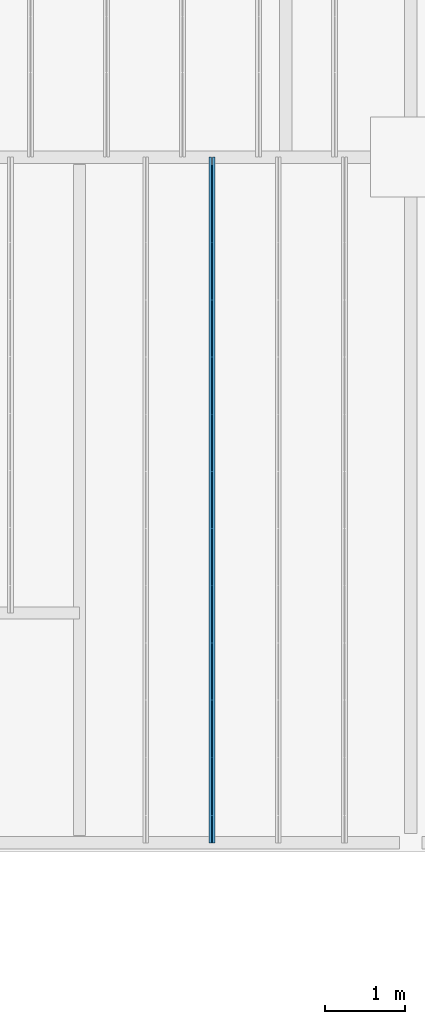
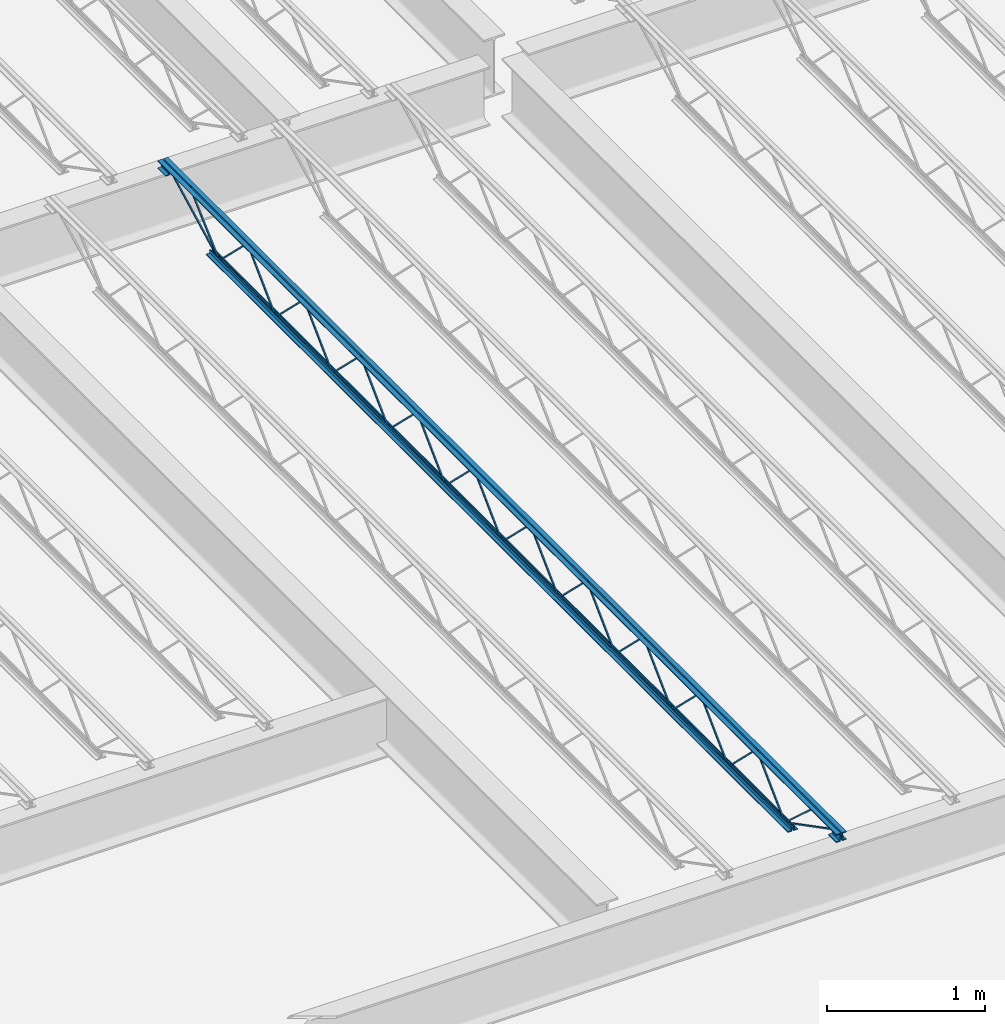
# One storey, part 31 of 75: 1 beam.
"""IFC2X3 building model written with IfcOpenShell, lengths in metres."""

from ifc_helpers import new_model, entity, si_unit, converted_unit, frame, origin, place, context, project, spatial, face_set, surface_model, element, save


model = new_model("IFC2X3")

# Units and contexts
model_context = context("Model", 3, precision=1e-09, world=origin())
plan_context = context("Plan", 3, precision=1e-09, world=origin())
ifc_project = project(units=[si_unit("LENGTHUNIT", "METRE"), si_unit("AREAUNIT", "SQUARE_METRE"), si_unit("VOLUMEUNIT", "CUBIC_METRE"), converted_unit("PLANEANGLEUNIT", "DEGREE", entity("IfcRatioMeasure", 0.01745329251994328), si_unit("PLANEANGLEUNIT", "RADIAN"), dimensions=[0, 0, 0, 0, 0, 0, 0]), si_unit("TIMEUNIT", "SECOND")], contexts=[model_context, plan_context])

# Site, building, storey
site_placement = place(None, origin())
site = spatial("IfcSite", under=ifc_project, at=site_placement, Name="Default", CompositionType="ELEMENT")
building_placement = place(site_placement, origin())
building = spatial("IfcBuilding", under=site, at=building_placement, CompositionType="ELEMENT")
storey_placement = place(building_placement, origin())
storey = spatial("IfcBuildingStorey", under=building, at=storey_placement, Name="First Floor", CompositionType="ELEMENT", Elevation=-3.531500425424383e-13)

# Beam
beam_placement = place(storey_placement, frame((-9.799585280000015, 10.03999999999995, 4.112000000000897)))
element("IfcBeam", 1, at=beam_placement, inside=storey, Name="M_K-Series Bar Joist-Rod Web:14K1:14K1", ObjectType="M_K-Series Bar Joist-Rod Web:14K1", context=model_context, shape_type="SurfaceModel", body=[
    surface_model("IfcFaceBasedSurfaceModel", [(0.0415000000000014, 6.428799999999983, 0.01110000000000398), (0.03200000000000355, 6.428799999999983, 0.01110000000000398), (0.03200000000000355, 6.428799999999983, 0.001600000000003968), (0.0415000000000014, 6.428799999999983, 0.001600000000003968), (0.03200000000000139, 6.430038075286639, 0.01110000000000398), (0.0415000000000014, 6.430038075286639, 0.01110000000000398), (0.03200000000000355, 6.433911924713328, 0.001600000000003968), (0.03200000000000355, 6.784861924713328, 0.3449000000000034), (0.03200000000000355, 6.787338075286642, 0.3449000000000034), (0.03200000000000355, 7.138288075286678, 0.001600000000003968), (0.03200000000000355, 7.143399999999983, 0.001600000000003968), (0.03200000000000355, 7.143399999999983, 0.01110000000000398), (0.03200000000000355, 7.142161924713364, 0.01110000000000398), (0.03200000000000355, 6.791211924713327, 0.3544000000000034), (0.03200000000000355, 6.780988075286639, 0.3544000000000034), (0.04150000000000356, 6.433911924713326, 0.001600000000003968), (0.0415000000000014, 6.784861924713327, 0.3449000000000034), (0.0415000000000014, 6.78733807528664, 0.3449000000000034), (0.0415000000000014, 7.138288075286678, 0.001600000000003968), (0.0415000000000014, 7.143399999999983, 0.001600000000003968), (0.0415000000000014, 7.143399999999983, 0.01110000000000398), (0.0415000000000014, 7.142161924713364, 0.01110000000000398), (0.0415000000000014, 6.79121192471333, 0.3544000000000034), (0.0415000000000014, 6.780988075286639, 0.3544000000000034), (0.0415000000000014, 5.714199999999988, 0.01110000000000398), (0.03200000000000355, 5.714199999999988, 0.01110000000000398), (0.03200000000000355, 5.714199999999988, 0.001600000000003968), (0.0415000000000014, 5.714199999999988, 0.001600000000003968), (0.03200000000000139, 5.715438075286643, 0.01110000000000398), (0.0415000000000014, 5.715438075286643, 0.01110000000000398), (0.03200000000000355, 5.71931192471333, 0.001600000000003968), (0.03200000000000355, 6.07026192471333, 0.3449000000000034), (0.03200000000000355, 6.072738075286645, 0.3449000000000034), (0.03200000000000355, 6.423688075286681, 0.001600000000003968), (0.03200000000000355, 6.428799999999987, 0.001600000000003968), (0.03200000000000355, 6.428799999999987, 0.01110000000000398), (0.03200000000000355, 6.427561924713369, 0.01110000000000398), (0.03200000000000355, 6.076611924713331, 0.3544000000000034), (0.03200000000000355, 6.066388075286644, 0.3544000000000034), (0.04150000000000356, 5.71931192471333, 0.001600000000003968), (0.0415000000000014, 6.07026192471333, 0.3449000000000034), (0.0415000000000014, 6.072738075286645, 0.3449000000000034), (0.0415000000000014, 6.423688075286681, 0.001600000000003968), (0.0415000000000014, 6.428799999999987, 0.001600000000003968), (0.0415000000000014, 6.428799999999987, 0.01110000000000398), (0.0415000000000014, 6.427561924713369, 0.01110000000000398), (0.0415000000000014, 6.076611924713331, 0.3544000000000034), (0.0415000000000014, 6.066388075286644, 0.3544000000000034), (0.0415000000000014, 4.999599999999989, 0.01110000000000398), (0.03200000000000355, 4.999599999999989, 0.01110000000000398), (0.03200000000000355, 4.999599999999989, 0.001600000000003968), (0.0415000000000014, 4.999599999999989, 0.001600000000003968), (0.03200000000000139, 5.000838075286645, 0.01110000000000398), (0.0415000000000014, 5.000838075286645, 0.01110000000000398), (0.03200000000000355, 5.004711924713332, 0.001600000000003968), (0.03200000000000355, 5.355661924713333, 0.3449000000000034), (0.03200000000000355, 5.358138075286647, 0.3449000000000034), (0.03200000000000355, 5.709088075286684, 0.001600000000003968), (0.03200000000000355, 5.714199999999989, 0.001600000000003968), (0.03200000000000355, 5.714199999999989, 0.01110000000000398), (0.03200000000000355, 5.712961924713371, 0.01110000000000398), (0.03200000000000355, 5.362011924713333, 0.3544000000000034), (0.03200000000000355, 5.351788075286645, 0.3544000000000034), (0.04150000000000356, 5.004711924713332, 0.001600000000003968), (0.0415000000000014, 5.355661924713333, 0.3449000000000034), (0.0415000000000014, 5.358138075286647, 0.3449000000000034), (0.0415000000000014, 5.709088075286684, 0.001600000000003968), (0.0415000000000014, 5.714199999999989, 0.001600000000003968), (0.0415000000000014, 5.714199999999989, 0.01110000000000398), (0.0415000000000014, 5.712961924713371, 0.01110000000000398), (0.0415000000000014, 5.362011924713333, 0.3544000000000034), (0.0415000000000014, 5.351788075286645, 0.3544000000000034), (0.0415000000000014, 4.284999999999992, 0.01110000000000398), (0.03200000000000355, 4.284999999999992, 0.01110000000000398), (0.03200000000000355, 4.284999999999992, 0.001600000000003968), (0.0415000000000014, 4.284999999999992, 0.001600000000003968), (0.03200000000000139, 4.286238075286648, 0.01110000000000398), (0.0415000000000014, 4.286238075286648, 0.01110000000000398), (0.03200000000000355, 4.290111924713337, 0.001600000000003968), (0.03200000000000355, 4.641061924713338, 0.3449000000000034), (0.03200000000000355, 4.643538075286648, 0.3449000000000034), (0.03200000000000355, 4.994488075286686, 0.001600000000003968), (0.03200000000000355, 4.999599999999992, 0.001600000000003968), (0.03200000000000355, 4.999599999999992, 0.01110000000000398), (0.03200000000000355, 4.998361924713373, 0.01110000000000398), (0.03200000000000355, 4.647411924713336, 0.3544000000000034), (0.03200000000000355, 4.637188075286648, 0.3544000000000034), (0.04150000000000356, 4.290111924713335, 0.001600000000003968), (0.0415000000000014, 4.641061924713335, 0.3449000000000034), (0.0415000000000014, 4.643538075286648, 0.3449000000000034), (0.0415000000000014, 4.994488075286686, 0.001600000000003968), (0.0415000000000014, 4.999599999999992, 0.001600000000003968), (0.0415000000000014, 4.999599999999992, 0.01110000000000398), (0.0415000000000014, 4.998361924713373, 0.01110000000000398), (0.0415000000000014, 4.647411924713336, 0.3544000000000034), (0.0415000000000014, 4.637188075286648, 0.3544000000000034), (0.0415000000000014, 3.570399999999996, 0.01110000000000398), (0.03200000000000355, 3.570399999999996, 0.01110000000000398), (0.03200000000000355, 3.570399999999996, 0.001600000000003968), (0.0415000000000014, 3.570399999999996, 0.001600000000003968), (0.03200000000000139, 3.571638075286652, 0.01110000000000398), (0.0415000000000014, 3.571638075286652, 0.01110000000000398), (0.03200000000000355, 3.575511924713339, 0.001600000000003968), (0.03200000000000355, 3.926461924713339, 0.3449000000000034), (0.03200000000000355, 3.928938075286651, 0.3449000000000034), (0.03200000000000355, 4.279888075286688, 0.001600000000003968), (0.03200000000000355, 4.284999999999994, 0.001600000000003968), (0.03200000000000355, 4.284999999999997, 0.01110000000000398), (0.03200000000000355, 4.283761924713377, 0.01110000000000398), (0.03200000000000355, 3.93281192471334, 0.3544000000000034), (0.03200000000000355, 3.922588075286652, 0.3544000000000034), (0.04150000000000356, 3.575511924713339, 0.001600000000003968), (0.0415000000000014, 3.926461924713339, 0.3449000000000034), (0.0415000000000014, 3.928938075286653, 0.3449000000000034), (0.0415000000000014, 4.27988807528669, 0.001600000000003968), (0.0415000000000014, 4.284999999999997, 0.001600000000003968), (0.0415000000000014, 4.284999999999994, 0.01110000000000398), (0.0415000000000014, 4.283761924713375, 0.01110000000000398), (0.0415000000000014, 3.932811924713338, 0.3544000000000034), (0.0415000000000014, 3.922588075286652, 0.3544000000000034), (0.0415000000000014, 2.855799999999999, 0.01110000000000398), (0.03200000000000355, 2.855799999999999, 0.01110000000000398), (0.03200000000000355, 2.855799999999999, 0.001600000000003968), (0.0415000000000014, 2.855799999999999, 0.001600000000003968), (0.03200000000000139, 2.857038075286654, 0.01110000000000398), (0.0415000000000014, 2.857038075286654, 0.01110000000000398), (0.03200000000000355, 2.860911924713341, 0.001600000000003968), (0.03200000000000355, 3.211861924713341, 0.3449000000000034), (0.03200000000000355, 3.214338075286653, 0.3449000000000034), (0.03200000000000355, 3.56528807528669, 0.001600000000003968), (0.03200000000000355, 3.570399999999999, 0.01110000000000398), (0.03200000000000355, 3.56916192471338, 0.01110000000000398), (0.03200000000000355, 3.218211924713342, 0.3544000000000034), (0.03200000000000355, 3.207988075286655, 0.3544000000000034), (0.04150000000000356, 2.860911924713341, 0.001600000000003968), (0.0415000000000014, 3.211861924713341, 0.3449000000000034), (0.0415000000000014, 3.214338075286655, 0.3449000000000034), (0.0415000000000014, 3.565288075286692, 0.001600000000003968), (0.0415000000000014, 3.570399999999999, 0.001600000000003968), (0.0415000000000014, 3.569161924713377, 0.01110000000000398), (0.0415000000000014, 3.21821192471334, 0.3544000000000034), (0.0415000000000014, 3.207988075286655, 0.3544000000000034), (0.0415000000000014, 2.1412, 0.01110000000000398), (0.03200000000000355, 2.1412, 0.01110000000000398), (0.03200000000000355, 2.1412, 0.001600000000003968), (0.0415000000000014, 2.1412, 0.001600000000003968), (0.03200000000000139, 2.142438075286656, 0.01110000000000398), (0.0415000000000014, 2.142438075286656, 0.01110000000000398), (0.03200000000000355, 2.146311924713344, 0.001600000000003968), (0.03200000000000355, 2.497261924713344, 0.3449000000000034), (0.03200000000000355, 2.499738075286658, 0.3449000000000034), (0.03200000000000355, 2.850688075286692, 0.001600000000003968), (0.03200000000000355, 2.8558, 0.001600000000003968), (0.03200000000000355, 2.8558, 0.01110000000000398), (0.03200000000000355, 2.854561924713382, 0.01110000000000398), (0.03200000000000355, 2.503611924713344, 0.3544000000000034), (0.03200000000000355, 2.493388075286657, 0.3544000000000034), (0.04150000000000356, 2.146311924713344, 0.001600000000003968), (0.0415000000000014, 2.497261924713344, 0.3449000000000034), (0.0415000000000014, 2.499738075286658, 0.3449000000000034), (0.0415000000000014, 2.850688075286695, 0.001600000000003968), (0.0415000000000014, 2.8558, 0.001600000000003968), (0.0415000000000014, 2.8558, 0.01110000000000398), (0.0415000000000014, 2.854561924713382, 0.01110000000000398), (0.0415000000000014, 2.503611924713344, 0.3544000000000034), (0.0415000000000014, 2.493388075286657, 0.3544000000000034), (0.0415000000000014, 1.426600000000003, 0.01110000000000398), (0.03200000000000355, 1.426600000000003, 0.01110000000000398), (0.03200000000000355, 1.426600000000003, 0.001600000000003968), (0.0415000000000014, 1.426600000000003, 0.001600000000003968), (0.03200000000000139, 1.427838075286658, 0.01110000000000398), (0.0415000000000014, 1.427838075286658, 0.01110000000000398), (0.03200000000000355, 1.431711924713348, 0.001600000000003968), (0.03200000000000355, 1.782661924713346, 0.3449000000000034), (0.03200000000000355, 1.78513807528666, 0.3449000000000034), (0.03200000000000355, 2.136088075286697, 0.001600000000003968), (0.03200000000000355, 2.141200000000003, 0.001600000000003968), (0.03200000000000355, 2.141200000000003, 0.01110000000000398), (0.03200000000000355, 2.139961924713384, 0.01110000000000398), (0.03200000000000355, 1.789011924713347, 0.3544000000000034), (0.03200000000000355, 1.778788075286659, 0.3544000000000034), (0.04150000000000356, 1.431711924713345, 0.001600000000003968), (0.0415000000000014, 1.782661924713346, 0.3449000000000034), (0.0415000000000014, 1.78513807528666, 0.3449000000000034), (0.0415000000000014, 2.136088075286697, 0.001600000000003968), (0.0415000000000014, 2.141200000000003, 0.001600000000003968), (0.0415000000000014, 2.141200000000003, 0.01110000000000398), (0.0415000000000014, 2.139961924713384, 0.01110000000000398), (0.0415000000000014, 1.789011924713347, 0.3544000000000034), (0.0415000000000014, 1.778788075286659, 0.3544000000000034), (0.04150000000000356, 7.143399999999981, 0.01109999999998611), (0.03200000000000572, 7.143399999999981, 0.01109999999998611), (0.03200000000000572, 7.143399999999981, 0.0015999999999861), (0.04150000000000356, 7.143399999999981, 0.0015999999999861), (0.03200000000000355, 7.144638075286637, 0.01109999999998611), (0.04150000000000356, 7.144638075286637, 0.01109999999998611), (0.03200000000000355, 7.148511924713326, 0.0015999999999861), (0.03200000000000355, 7.499461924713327, 0.3448999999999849), (0.03200000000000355, 7.50193807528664, 0.3448999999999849), (0.03200000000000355, 7.852888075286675, 0.0015999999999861), (0.03200000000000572, 7.857999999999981, 0.0015999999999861), (0.03200000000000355, 7.857999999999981, 0.01109999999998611), (0.03200000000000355, 7.856761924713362, 0.01109999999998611), (0.03200000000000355, 7.505811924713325, 0.354399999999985), (0.03200000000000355, 7.495588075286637, 0.354399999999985), (0.04150000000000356, 7.148511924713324, 0.0015999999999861), (0.04150000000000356, 7.499461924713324, 0.3448999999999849), (0.04150000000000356, 7.501938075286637, 0.3448999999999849), (0.04150000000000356, 7.852888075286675, 0.0015999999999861), (0.04150000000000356, 7.857999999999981, 0.0015999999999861), (0.04150000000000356, 7.857999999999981, 0.01109999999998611), (0.04150000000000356, 7.856761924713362, 0.01109999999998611), (0.04150000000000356, 7.505811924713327, 0.354399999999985), (0.04150000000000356, 7.495588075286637, 0.354399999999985), (0.0415000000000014, 0.712000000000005, 0.01110000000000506), (0.03200000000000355, 0.712000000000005, 0.01110000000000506), (0.03200000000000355, 0.712000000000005, 0.001600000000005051), (0.0415000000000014, 0.712000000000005, 0.001600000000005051), (0.03200000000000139, 0.7132380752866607, 0.01110000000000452), (0.0415000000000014, 0.7132380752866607, 0.01110000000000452), (0.03200000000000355, 0.7171119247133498, 0.001600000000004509), (0.03200000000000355, 1.068061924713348, 0.3449000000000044), (0.03200000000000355, 1.070538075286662, 0.3449000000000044), (0.03200000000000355, 1.421488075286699, 0.001600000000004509), (0.03200000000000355, 1.426600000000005, 0.001600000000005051), (0.03200000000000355, 1.426600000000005, 0.01110000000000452), (0.03200000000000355, 1.425361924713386, 0.01110000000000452), (0.03200000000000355, 1.074411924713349, 0.3544000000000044), (0.03200000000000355, 1.064188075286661, 0.3544000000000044), (0.04150000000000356, 0.7171119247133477, 0.001600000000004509), (0.0415000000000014, 1.068061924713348, 0.3449000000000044), (0.0415000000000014, 1.070538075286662, 0.3449000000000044), (0.0415000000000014, 1.421488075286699, 0.001600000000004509), (0.0415000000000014, 1.426600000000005, 0.001600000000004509), (0.0415000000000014, 1.426600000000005, 0.01110000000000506), (0.0415000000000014, 1.425361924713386, 0.01110000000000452), (0.0415000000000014, 1.074411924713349, 0.3544000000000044), (0.0415000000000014, 1.064188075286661, 0.3544000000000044), (0.03200000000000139, 8.569999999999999, 0.3559999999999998), (0.0, 8.569999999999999, 0.3559999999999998), (0.0, 8.569999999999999, 0.349499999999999), (0.0255000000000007, 8.569999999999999, 0.349499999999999), (0.0255000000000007, 8.569999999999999, 0.3239999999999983), (0.03200000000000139, 8.569999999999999, 0.3239999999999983), (0.0415000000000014, 8.569999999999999, 0.3559999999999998), (0.0415000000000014, 8.569999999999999, 0.3239999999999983), (0.048000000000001, 8.569999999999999, 0.3239999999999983), (0.048000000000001, 8.569999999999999, 0.349499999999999), (0.0735000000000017, 8.569999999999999, 0.349499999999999), (0.0735000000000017, 8.569999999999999, 0.3559999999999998), (0.03200000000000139, 0.0, 0.3559999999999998), (0.0, 0.0, 0.3559999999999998), (0.0, 0.0, 0.349499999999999), (0.0255000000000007, 0.0, 0.349499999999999), (0.0255000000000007, 0.0, 0.3239999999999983), (0.03200000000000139, 0.0, 0.3239999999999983), (0.0415000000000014, 0.0, 0.3559999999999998), (0.0415000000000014, 0.0, 0.3239999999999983), (0.048000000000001, 0.0, 0.3239999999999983), (0.048000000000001, 0.0, 0.349499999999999), (0.0735000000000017, 0.0, 0.349499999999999), (0.0735000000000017, 0.0, 0.3559999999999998), (0.0415000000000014, 0.0999999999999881, 0.2924999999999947), (0.0735000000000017, 0.0999999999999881, 0.2924999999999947), (0.0735000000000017, 0.0999999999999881, 0.2989999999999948), (0.048000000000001, 0.0999999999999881, 0.2989999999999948), (0.048000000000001, 0.0999999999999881, 0.3239999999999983), (0.0415000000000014, 0.0999999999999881, 0.3239999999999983), (0.0, 0.0999999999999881, 0.2924999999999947), (0.03200000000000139, 0.0999999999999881, 0.2924999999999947), (0.03200000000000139, 0.0999999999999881, 0.3239999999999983), (0.0255000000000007, 0.0999999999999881, 0.3239999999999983), (0.0255000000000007, 0.0999999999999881, 0.2989999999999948), (0.0, 0.0999999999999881, 0.2989999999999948), (0.0415000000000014, 0.0, 0.2924999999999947), (0.0735000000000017, 0.0, 0.2924999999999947), (0.0735000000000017, 0.0, 0.2989999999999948), (0.048000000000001, 0.0, 0.2989999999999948), (0.0, 0.0, 0.2924999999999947), (0.03200000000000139, 0.0, 0.2924999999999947), (0.0255000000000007, 0.0, 0.2989999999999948), (0.0, 0.0, 0.2989999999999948), (0.03200000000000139, 8.569999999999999, 0.2924999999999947), (0.02550000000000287, 8.569999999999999, 0.3239999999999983), (0.02550000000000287, 8.569999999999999, 0.2989999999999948), (0.0, 8.569999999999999, 0.2989999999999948), (0.0, 8.569999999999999, 0.2924999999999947), (0.0415000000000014, 8.569999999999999, 0.2924999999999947), (0.0735000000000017, 8.569999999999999, 0.2924999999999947), (0.0735000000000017, 8.569999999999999, 0.2989999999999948), (0.04800000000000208, 8.569999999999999, 0.2989999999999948), (0.04800000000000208, 8.569999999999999, 0.3239999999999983), (0.03200000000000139, 8.47, 0.2924999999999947), (0.03200000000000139, 8.47, 0.3239999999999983), (0.02550000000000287, 8.47, 0.3239999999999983), (0.02550000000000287, 8.47, 0.2989999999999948), (0.0, 8.47, 0.2989999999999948), (0.0, 8.47, 0.2924999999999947), (0.0415000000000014, 8.47, 0.2924999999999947), (0.0735000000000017, 8.47, 0.2924999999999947), (0.0735000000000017, 8.47, 0.2989999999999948), (0.04800000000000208, 8.47, 0.2989999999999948), (0.04800000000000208, 8.47, 0.3239999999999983), (0.0415000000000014, 8.47, 0.3239999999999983), (0.03200000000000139, 7.958000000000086, 0.0), (0.03200000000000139, 7.958000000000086, 0.03199999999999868), (0.0255000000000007, 7.958000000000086, 0.03199999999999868), (0.0255000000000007, 7.958000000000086, 0.006499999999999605), (0.0, 7.958000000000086, 0.006499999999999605), (0.0, 7.958000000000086, 0.0), (0.0415000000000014, 7.958000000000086, 0.0), (0.0735000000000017, 7.958000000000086, 0.0), (0.0735000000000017, 7.958000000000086, 0.006499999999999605), (0.048000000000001, 7.958000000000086, 0.006499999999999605), (0.048000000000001, 7.958000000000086, 0.03199999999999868), (0.0415000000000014, 7.958000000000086, 0.03199999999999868), (0.03200000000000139, 0.6120000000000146, 0.0), (0.03200000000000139, 0.6120000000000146, 0.03199999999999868), (0.0255000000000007, 0.6120000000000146, 0.03199999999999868), (0.0255000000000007, 0.6120000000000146, 0.006499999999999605), (0.0, 0.6120000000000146, 0.006499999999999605), (0.0, 0.6120000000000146, 0.0), (0.0415000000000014, 0.6120000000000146, 0.0), (0.0735000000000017, 0.6120000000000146, 0.0), (0.0735000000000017, 0.6120000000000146, 0.006499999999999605), (0.048000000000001, 0.6120000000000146, 0.006499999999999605), (0.048000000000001, 0.6120000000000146, 0.03199999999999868), (0.0415000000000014, 0.6120000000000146, 0.03199999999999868), (0.04150000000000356, 0.7141882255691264, 0.01056594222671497), (0.03200000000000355, 0.7141882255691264, 0.01056594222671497), (0.03200000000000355, 0.7098117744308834, 0.002134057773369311), (0.04150000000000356, 0.7098117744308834, 0.002134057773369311), (0.04150000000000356, 0.1011592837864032, 0.3287499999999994), (0.04150000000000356, 0.0, 0.3287499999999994), (0.04150000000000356, 0.0, 0.3192499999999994), (0.04150000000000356, 0.09884071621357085, 0.3192499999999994), (0.03200000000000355, 0.09884071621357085, 0.3192499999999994), (0.03200000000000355, 0.1011592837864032, 0.3287499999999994), (0.03200000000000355, 0.0, 0.3287499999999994), (0.03200000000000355, 0.0, 0.3192499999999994), (0.0415000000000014, 0.3347428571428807, 0.341700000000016), (0.03200000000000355, 0.3347428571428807, 0.341700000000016), (0.03200000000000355, 0.3347428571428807, 0.332200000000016), (0.0415000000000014, 0.3347428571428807, 0.332200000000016), (0.03200000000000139, 0.3492758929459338, 0.341700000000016), (0.0415000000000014, 0.3492758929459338, 0.341700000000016), (0.03200000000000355, 0.3456098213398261, 0.332200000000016), (0.03200000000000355, 0.7088091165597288, 0.002831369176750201), (0.03200000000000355, 0.7151908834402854, 0.009868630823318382), (0.04150000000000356, 0.3456098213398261, 0.332200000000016), (0.0415000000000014, 0.708809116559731, 0.002831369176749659), (0.0415000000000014, 0.7151908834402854, 0.009868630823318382), (0.0415000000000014, 8.472188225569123, 0.3197840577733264), (0.0415000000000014, 8.467811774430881, 0.3282159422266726), (0.03200000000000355, 8.467811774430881, 0.3282159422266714), (0.03200000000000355, 8.472188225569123, 0.3197840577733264), (0.0415000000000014, 7.860188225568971, 0.002134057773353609), (0.0415000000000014, 7.855811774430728, 0.01056594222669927), (0.03200000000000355, 7.855811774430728, 0.01056594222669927), (0.03200000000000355, 7.860188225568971, 0.002134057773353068), (0.0415000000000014, 8.233036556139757, 0.3461600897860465), (0.0415000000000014, 8.22659201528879, 0.3531399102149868), (0.03200000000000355, 8.22659201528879, 0.3531399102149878), (0.03200000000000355, 8.233036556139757, 0.3461600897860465), (0.0415000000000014, 7.86122227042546, 0.002860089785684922), (0.0415000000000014, 7.854777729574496, 0.009839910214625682), (0.03200000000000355, 7.854777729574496, 0.009839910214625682), (0.03200000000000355, 7.86122227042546, 0.002860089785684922)], [face_set([[[0, 1, 2, 3]], [[1, 4, 5, 0]], [[2, 6, 7, 8, 9, 10, 11, 12, 13, 14, 4, 1]], [[3, 2, 6, 15]], [[0, 3, 15, 16, 17, 18, 19, 20, 21, 22, 23, 5]], [[4, 5, 23, 14]], [[15, 16, 7, 6]], [[14, 13, 22, 23]], [[16, 7, 8, 17]], [[13, 12, 21, 22]], [[17, 8, 9, 18]], [[20, 11, 10, 19]], [[12, 11, 20, 21]], [[18, 9, 10, 19]]]), face_set([[[24, 25, 26, 27]], [[25, 28, 29, 24]], [[26, 30, 31, 32, 33, 34, 35, 36, 37, 38, 28, 25]], [[27, 26, 30, 39]], [[24, 27, 39, 40, 41, 42, 43, 44, 45, 46, 47, 29]], [[28, 29, 47, 38]], [[39, 40, 31, 30]], [[38, 37, 46, 47]], [[40, 31, 32, 41]], [[37, 36, 45, 46]], [[41, 32, 33, 42]], [[44, 35, 34, 43]], [[36, 35, 44, 45]], [[42, 33, 34, 43]]]), face_set([[[48, 49, 50, 51]], [[49, 52, 53, 48]], [[50, 54, 55, 56, 57, 58, 59, 60, 61, 62, 52, 49]], [[51, 50, 54, 63]], [[48, 51, 63, 64, 65, 66, 67, 68, 69, 70, 71, 53]], [[52, 53, 71, 62]], [[63, 64, 55, 54]], [[62, 61, 70, 71]], [[64, 55, 56, 65]], [[61, 60, 69, 70]], [[65, 56, 57, 66]], [[68, 59, 58, 67]], [[60, 59, 68, 69]], [[66, 57, 58, 67]]]), face_set([[[72, 73, 74, 75]], [[73, 76, 77, 72]], [[74, 78, 79, 80, 81, 82, 83, 84, 85, 86, 76, 73]], [[75, 74, 78, 87]], [[72, 75, 87, 88, 89, 90, 91, 92, 93, 94, 95, 77]], [[76, 77, 95, 86]], [[87, 88, 79, 78]], [[86, 85, 94, 95]], [[88, 79, 80, 89]], [[85, 84, 93, 94]], [[89, 80, 81, 90]], [[92, 83, 82, 91]], [[84, 83, 92, 93]], [[90, 81, 82, 91]]]), face_set([[[96, 97, 98, 99]], [[97, 100, 101, 96]], [[98, 102, 103, 104, 105, 106, 107, 108, 109, 110, 100, 97]], [[99, 98, 102, 111]], [[96, 99, 111, 112, 113, 114, 115, 116, 117, 118, 119, 101]], [[100, 101, 119, 110]], [[111, 112, 103, 102]], [[110, 109, 118, 119]], [[112, 103, 104, 113]], [[109, 108, 117, 118]], [[113, 104, 105, 114]], [[116, 107, 106, 115]], [[108, 107, 116, 117]], [[114, 105, 106, 115]]]), face_set([[[120, 121, 122, 123]], [[121, 124, 125, 120]], [[122, 126, 127, 128, 129, 98, 130, 131, 132, 133, 124, 121]], [[123, 122, 126, 134]], [[120, 123, 134, 135, 136, 137, 138, 96, 139, 140, 141, 125]], [[124, 125, 141, 133]], [[134, 135, 127, 126]], [[133, 132, 140, 141]], [[135, 127, 128, 136]], [[132, 131, 139, 140]], [[136, 128, 129, 137]], [[96, 130, 98, 138]], [[131, 130, 96, 139]], [[137, 129, 98, 138]]]), face_set([[[142, 143, 144, 145]], [[143, 146, 147, 142]], [[144, 148, 149, 150, 151, 152, 153, 154, 155, 156, 146, 143]], [[145, 144, 148, 157]], [[142, 145, 157, 158, 159, 160, 161, 162, 163, 164, 165, 147]], [[146, 147, 165, 156]], [[157, 158, 149, 148]], [[156, 155, 164, 165]], [[158, 149, 150, 159]], [[155, 154, 163, 164]], [[159, 150, 151, 160]], [[162, 153, 152, 161]], [[154, 153, 162, 163]], [[160, 151, 152, 161]]]), face_set([[[166, 167, 168, 169]], [[167, 170, 171, 166]], [[168, 172, 173, 174, 175, 176, 177, 178, 179, 180, 170, 167]], [[169, 168, 172, 181]], [[166, 169, 181, 182, 183, 184, 185, 186, 187, 188, 189, 171]], [[170, 171, 189, 180]], [[181, 182, 173, 172]], [[180, 179, 188, 189]], [[182, 173, 174, 183]], [[179, 178, 187, 188]], [[183, 174, 175, 184]], [[186, 177, 176, 185]], [[178, 177, 186, 187]], [[184, 175, 176, 185]]]), face_set([[[190, 191, 192, 193]], [[191, 194, 195, 190]], [[192, 196, 197, 198, 199, 200, 201, 202, 203, 204, 194, 191]], [[193, 192, 196, 205]], [[190, 193, 205, 206, 207, 208, 209, 210, 211, 212, 213, 195]], [[194, 195, 213, 204]], [[205, 206, 197, 196]], [[204, 203, 212, 213]], [[206, 197, 198, 207]], [[203, 202, 211, 212]], [[207, 198, 199, 208]], [[210, 201, 200, 209]], [[202, 201, 210, 211]], [[208, 199, 200, 209]]]), face_set([[[214, 215, 216, 217]], [[215, 218, 219, 214]], [[216, 220, 221, 222, 223, 224, 225, 226, 227, 228, 218, 215]], [[217, 216, 220, 229]], [[214, 217, 229, 230, 231, 232, 233, 234, 235, 236, 237, 219]], [[218, 219, 237, 228]], [[229, 230, 221, 220]], [[228, 227, 236, 237]], [[230, 221, 222, 231]], [[227, 226, 235, 236]], [[231, 222, 223, 232]], [[234, 225, 224, 233]], [[226, 225, 234, 235]], [[232, 223, 224, 233]]]), face_set([[[238, 239, 240, 241, 242, 243]], [[244, 245, 246, 247, 248, 249]], [[250, 251, 252, 253, 254, 255]], [[256, 257, 258, 259, 260, 261]], [[243, 238, 250, 255]], [[242, 243, 255, 254]], [[241, 253, 254, 242]], [[240, 241, 253, 252]], [[239, 251, 252, 240]], [[238, 250, 251, 239]], [[249, 261, 256, 244]], [[248, 249, 261, 260]], [[247, 248, 260, 259]], [[246, 247, 259, 258]], [[245, 246, 258, 257]], [[244, 256, 257, 245]]]), face_set([[[262, 263, 264, 265, 266, 267]], [[268, 269, 270, 271, 272, 273]], [[274, 275, 276, 277, 258, 257]], [[278, 279, 255, 254, 280, 281]], [[267, 257, 274, 262]], [[266, 258, 257, 267]], [[265, 266, 258, 277]], [[264, 276, 277, 265]], [[263, 264, 276, 275]], [[262, 263, 275, 274]], [[273, 281, 278, 268]], [[272, 280, 281, 273]], [[271, 254, 280, 272]], [[270, 255, 254, 271]], [[269, 270, 255, 279]], [[268, 269, 279, 278]]]), face_set([[[282, 243, 283, 284, 285, 286]], [[287, 288, 289, 290, 291, 245]], [[292, 293, 294, 295, 296, 297]], [[298, 299, 300, 301, 302, 303]], [[286, 282, 292, 297]], [[285, 296, 297, 286]], [[284, 295, 296, 285]], [[283, 294, 295, 284]], [[243, 293, 294, 283]], [[282, 243, 293, 292]], [[245, 303, 298, 287]], [[291, 302, 303, 245]], [[290, 291, 302, 301]], [[289, 300, 301, 290]], [[288, 289, 300, 299]], [[287, 288, 299, 298]]]), face_set([[[304, 305, 306, 307, 308, 309]], [[310, 311, 312, 313, 314, 315]], [[316, 317, 318, 319, 320, 321]], [[322, 323, 324, 325, 326, 327]], [[309, 304, 316, 321]], [[308, 320, 321, 309]], [[307, 319, 320, 308]], [[306, 318, 319, 307]], [[305, 317, 318, 306]], [[304, 305, 317, 316]], [[315, 327, 322, 310]], [[314, 326, 327, 315]], [[313, 314, 326, 325]], [[312, 324, 325, 313]], [[311, 312, 324, 323]], [[310, 311, 323, 322]]]), face_set([[[328, 329, 330, 331]], [[331, 328, 332, 333, 334, 335]], [[330, 331, 335, 336]], [[329, 337, 338, 339, 336, 330]], [[328, 332, 337, 329]], [[333, 338, 339, 334]], [[336, 335, 334, 339]], [[332, 333, 338, 337]]]), face_set([[[340, 341, 342, 343]], [[341, 344, 345, 340]], [[342, 346, 347, 348, 344, 341]], [[343, 342, 346, 349]], [[340, 343, 349, 350, 351, 345]], [[351, 348, 347, 350]], [[344, 348, 351, 345]], [[349, 346, 347, 350]]]), face_set([[[352, 353, 354, 355]], [[356, 357, 358, 359]], [[355, 359, 356, 352]], [[354, 358, 359, 355]], [[353, 354, 358, 357]], [[352, 353, 357, 356]]]), face_set([[[360, 361, 362, 363]], [[364, 365, 366, 367]], [[363, 367, 364, 360]], [[362, 366, 367, 363]], [[361, 362, 366, 365]], [[360, 361, 365, 364]]])]),
])

save(model, "model.ifc")
